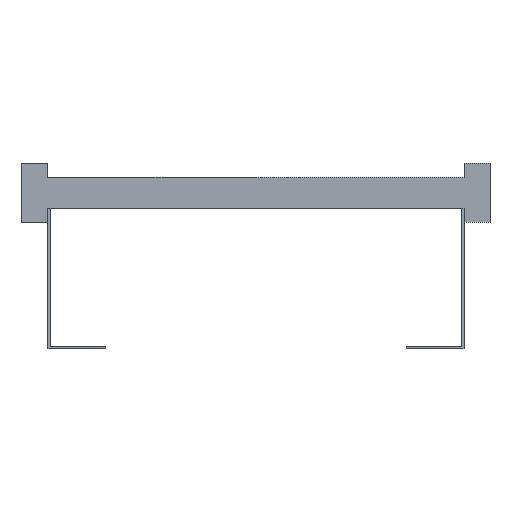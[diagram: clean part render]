
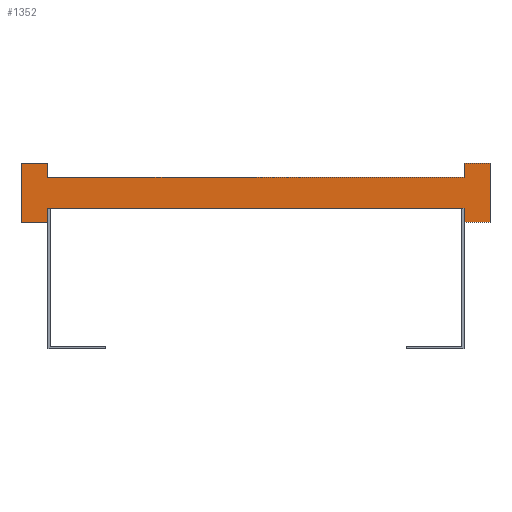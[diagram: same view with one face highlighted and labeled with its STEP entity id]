
A CAD part, front view. The second image highlights one B-rep face of the part: STEP entity #1352.
In plain terms, the highlighted planar face has unit normal (0, -1, 0).
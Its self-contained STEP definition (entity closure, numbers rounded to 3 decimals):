
#113=DIRECTION('',(0.,0.,1.));
#114=VECTOR('',#113,13.5);
#115=CARTESIAN_POINT('',(200.,0.,-28.5));
#116=LINE('',#115,#114);
#117=DIRECTION('',(0.,0.,-1.));
#118=VECTOR('',#117,13.5);
#119=CARTESIAN_POINT('',(-200.,0.,-15.));
#120=LINE('',#119,#118);
#121=DIRECTION('',(-1.,0.,0.));
#122=VECTOR('',#121,25.);
#123=CARTESIAN_POINT('',(-200.,0.,-28.5));
#124=LINE('',#123,#122);
#125=DIRECTION('',(0.,0.,1.));
#126=VECTOR('',#125,57.);
#127=CARTESIAN_POINT('',(-225.,0.,-28.5));
#128=LINE('',#127,#126);
#129=DIRECTION('',(1.,0.,0.));
#130=VECTOR('',#129,25.);
#131=CARTESIAN_POINT('',(-225.,0.,28.5));
#132=LINE('',#131,#130);
#133=DIRECTION('',(0.,0.,-1.));
#134=VECTOR('',#133,13.5);
#135=CARTESIAN_POINT('',(-200.,0.,28.5));
#136=LINE('',#135,#134);
#137=DIRECTION('',(0.,0.,1.));
#138=VECTOR('',#137,13.5);
#139=CARTESIAN_POINT('',(200.,0.,15.));
#140=LINE('',#139,#138);
#141=DIRECTION('',(1.,0.,0.));
#142=VECTOR('',#141,25.);
#143=CARTESIAN_POINT('',(200.,0.,28.5));
#144=LINE('',#143,#142);
#145=DIRECTION('',(0.,0.,-1.));
#146=VECTOR('',#145,57.);
#147=CARTESIAN_POINT('',(225.,0.,28.5));
#148=LINE('',#147,#146);
#149=DIRECTION('',(-1.,0.,0.));
#150=VECTOR('',#149,25.);
#151=CARTESIAN_POINT('',(225.,0.,-28.5));
#152=LINE('',#151,#150);
#1009=DIRECTION('',(1.,0.,0.));
#1010=VECTOR('',#1009,400.);
#1011=CARTESIAN_POINT('',(-200.,0.,-15.));
#1012=LINE('',#1011,#1010);
#1021=DIRECTION('',(1.,0.,0.));
#1022=VECTOR('',#1021,400.);
#1023=CARTESIAN_POINT('',(-200.,0.,15.));
#1024=LINE('',#1023,#1022);
#1025=CARTESIAN_POINT('',(-225.,0.,28.5));
#1026=CARTESIAN_POINT('',(-200.,0.,28.5));
#1027=VERTEX_POINT('',#1025);
#1028=VERTEX_POINT('',#1026);
#1029=CARTESIAN_POINT('',(-200.,0.,-28.5));
#1030=CARTESIAN_POINT('',(-225.,0.,-28.5));
#1031=VERTEX_POINT('',#1029);
#1032=VERTEX_POINT('',#1030);
#1033=CARTESIAN_POINT('',(225.,0.,28.5));
#1034=CARTESIAN_POINT('',(225.,0.,-28.5));
#1035=VERTEX_POINT('',#1033);
#1036=VERTEX_POINT('',#1034);
#1037=CARTESIAN_POINT('',(200.,0.,-28.5));
#1038=VERTEX_POINT('',#1037);
#1039=CARTESIAN_POINT('',(200.,0.,28.5));
#1040=VERTEX_POINT('',#1039);
#1057=CARTESIAN_POINT('',(-200.,0.,-15.));
#1059=VERTEX_POINT('',#1057);
#1061=CARTESIAN_POINT('',(-200.,0.,15.));
#1063=VERTEX_POINT('',#1061);
#1065=CARTESIAN_POINT('',(200.,0.,-15.));
#1067=VERTEX_POINT('',#1065);
#1069=CARTESIAN_POINT('',(200.,0.,15.));
#1071=VERTEX_POINT('',#1069);
#1321=CARTESIAN_POINT('',(0.,0.,0.));
#1322=DIRECTION('',(0.,1.,0.));
#1323=DIRECTION('',(1.,0.,0.));
#1324=AXIS2_PLACEMENT_3D('',#1321,#1322,#1323);
#1325=PLANE('',#1324);
#1327=ORIENTED_EDGE('',*,*,#1326,.T.);
#1329=ORIENTED_EDGE('',*,*,#1328,.F.);
#1331=ORIENTED_EDGE('',*,*,#1330,.T.);
#1333=ORIENTED_EDGE('',*,*,#1332,.T.);
#1335=ORIENTED_EDGE('',*,*,#1334,.T.);
#1337=ORIENTED_EDGE('',*,*,#1336,.T.);
#1339=ORIENTED_EDGE('',*,*,#1338,.T.);
#1341=ORIENTED_EDGE('',*,*,#1340,.T.);
#1343=ORIENTED_EDGE('',*,*,#1342,.T.);
#1345=ORIENTED_EDGE('',*,*,#1344,.T.);
#1347=ORIENTED_EDGE('',*,*,#1346,.T.);
#1349=ORIENTED_EDGE('',*,*,#1348,.T.);
#1350=EDGE_LOOP('',(#1327,#1329,#1331,#1333,#1335,#1337,#1339,#1341,#1343,#1345,
#1347,#1349));
#1351=FACE_OUTER_BOUND('',#1350,.F.);
#1326=EDGE_CURVE('',#1038,#1067,#116,.T.);
#1328=EDGE_CURVE('',#1059,#1067,#1012,.T.);
#1330=EDGE_CURVE('',#1059,#1031,#120,.T.);
#1332=EDGE_CURVE('',#1031,#1032,#124,.T.);
#1334=EDGE_CURVE('',#1032,#1027,#128,.T.);
#1336=EDGE_CURVE('',#1027,#1028,#132,.T.);
#1338=EDGE_CURVE('',#1028,#1063,#136,.T.);
#1340=EDGE_CURVE('',#1063,#1071,#1024,.T.);
#1342=EDGE_CURVE('',#1071,#1040,#140,.T.);
#1344=EDGE_CURVE('',#1040,#1035,#144,.T.);
#1346=EDGE_CURVE('',#1035,#1036,#148,.T.);
#1348=EDGE_CURVE('',#1036,#1038,#152,.T.);
#1352=ADVANCED_FACE('',(#1351),#1325,.F.);
